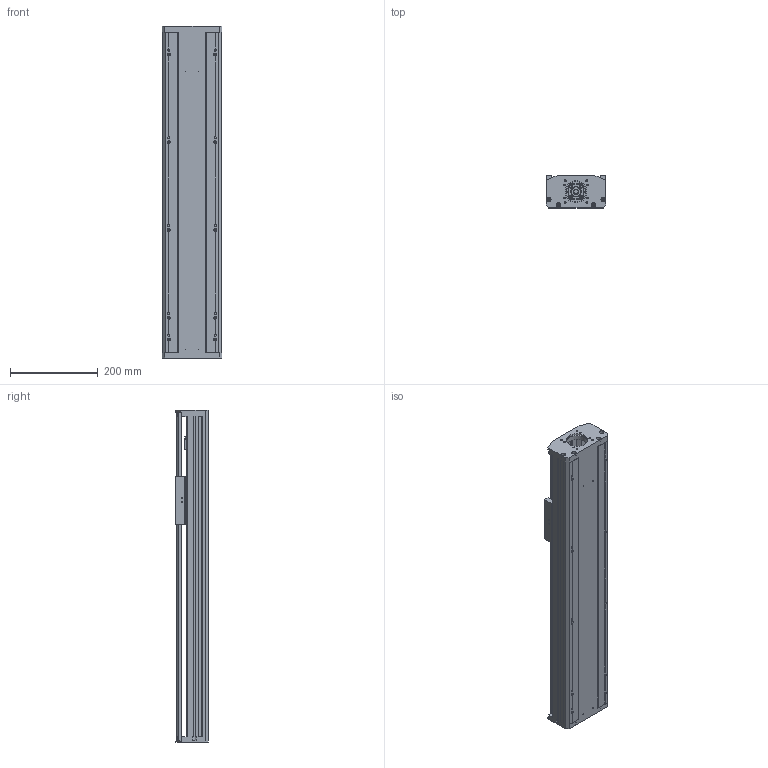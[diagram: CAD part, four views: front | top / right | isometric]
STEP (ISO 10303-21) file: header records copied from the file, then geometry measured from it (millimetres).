
FILE_DESCRIPTION(/* description */ (''),/* implementation_level */ '2;1');
FILE_NAME(/* name */ 'TKA136-F0-500_asm1_stp.stp',/* time_stamp */ '2016-09-08T15:35:20+08:00',/* author */ (''),/* organization */ (''),/* preprocessor_version */ 'ST-DEVELOPER v15',/* originating_system */ 'SIEMENS PLM Software NX 8.5',/* authorisation */ '');
FILE_SCHEMA (('AUTOMOTIVE_DESIGN { 1 0 10303 214 3 1 1 1 }'));
Length unit declared in the file: millimetre
Products named in the file (3): 500-02; 500-01; TKA136-F0-500_asm1_stp
Assembly tree (2 placements, depth 2):
  TKA136-F0-500_asm1_stp
    500-01
    500-02
Bounding box: 136 x 75 x 757 mm (x, y, z)
Volume: 2497589.7 mm3; surface area: 909850 mm2
Topology: 2 solids, 12 shells, 813 faces, 2255 edges, 1464 vertices
Faces by surface type: plane 383, cylinder 376, cone 54
Full cylindrical faces by diameter (mm): 2.5 x4, 3 x2, 3.3 x12, 4 x4, 4.2 x10, 4.5 x20, 5 x14, 5.5 x26, 6.6 x14, 8 x20, 10 x9, 10.5 x10, 11 x4, 11.6 x1, 12 x9, 15 x3, 16 x5, 17 x1, 24 x5, 26 x1, 28 x1, 46 x1, 50 x1
Entity records: 27046 total; most frequent: CARTESIAN_POINT 7258, DIRECTION 4097, ORIENTED_EDGE 3828, EDGE_CURVE 1914, AXIS2_PLACEMENT_3D 1559, VERTEX_POINT 1380, EDGE_LOOP 1188, LINE 979
